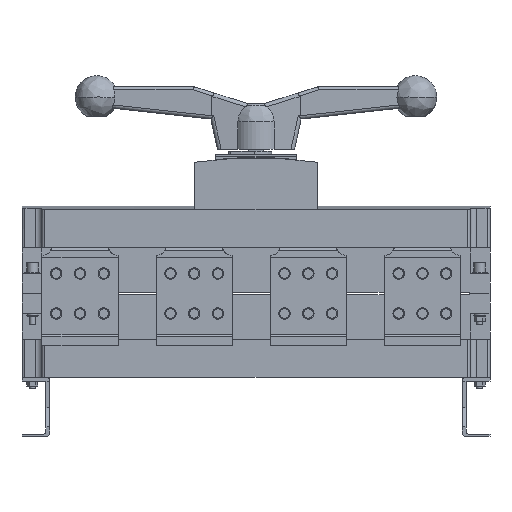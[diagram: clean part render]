
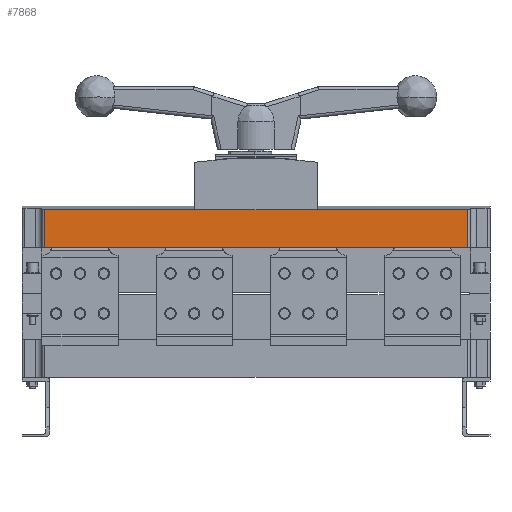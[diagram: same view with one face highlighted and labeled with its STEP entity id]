
A CAD part, front view. The second image highlights one B-rep face of the part: STEP entity #7868.
In plain terms, the highlighted planar face has unit normal (0, -1, 0) as drawn and (0, 1, 0) by its records, which use the part's own axes.
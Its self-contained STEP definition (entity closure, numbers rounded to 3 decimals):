
#6979=DIRECTION('',(-1.,0.,0.));
#6980=VECTOR('',#6979,444.);
#6981=CARTESIAN_POINT('',(222.,100.,-20.));
#6982=LINE('',#6981,#6980);
#7097=CARTESIAN_POINT('',(-222.,100.,20.));
#7099=DIRECTION('',(1.,0.,0.));
#7100=VECTOR('',#7099,444.);
#7101=CARTESIAN_POINT('',(-222.,100.,20.));
#7102=LINE('',#7101,#7100);
#7296=DIRECTION('',(0.,0.,1.));
#7297=VECTOR('',#7296,40.);
#7298=CARTESIAN_POINT('',(-222.,100.,-20.));
#7299=LINE('',#7298,#7297);
#7304=DIRECTION('',(0.,0.,-1.));
#7305=VECTOR('',#7304,40.);
#7306=CARTESIAN_POINT('',(222.,100.,20.));
#7307=LINE('',#7306,#7305);
#7386=CARTESIAN_POINT('',(222.,100.,-20.));
#7387=VERTEX_POINT('',#7386);
#7388=CARTESIAN_POINT('',(-222.,100.,-20.));
#7389=VERTEX_POINT('',#7388);
#7453=VERTEX_POINT('',#7097);
#7454=CARTESIAN_POINT('',(222.,100.,20.));
#7455=VERTEX_POINT('',#7454);
#7856=CARTESIAN_POINT('',(246.,100.,-20.));
#7857=DIRECTION('',(0.,1.,0.));
#7858=DIRECTION('',(-1.,0.,0.));
#7859=AXIS2_PLACEMENT_3D('',#7856,#7857,#7858);
#7860=PLANE('',#7859);
#7861=ORIENTED_EDGE('',*,*,#7586,.F.);
#7862=ORIENTED_EDGE('',*,*,#7851,.F.);
#7863=ORIENTED_EDGE('',*,*,#7491,.F.);
#7865=ORIENTED_EDGE('',*,*,#7864,.F.);
#7866=EDGE_LOOP('',(#7861,#7862,#7863,#7865));
#7867=FACE_OUTER_BOUND('',#7866,.F.);
#7491=EDGE_CURVE('',#7387,#7389,#6982,.T.);
#7586=EDGE_CURVE('',#7453,#7455,#7102,.T.);
#7851=EDGE_CURVE('',#7389,#7453,#7299,.T.);
#7864=EDGE_CURVE('',#7455,#7387,#7307,.T.);
#7868=ADVANCED_FACE('',(#7867),#7860,.T.);
